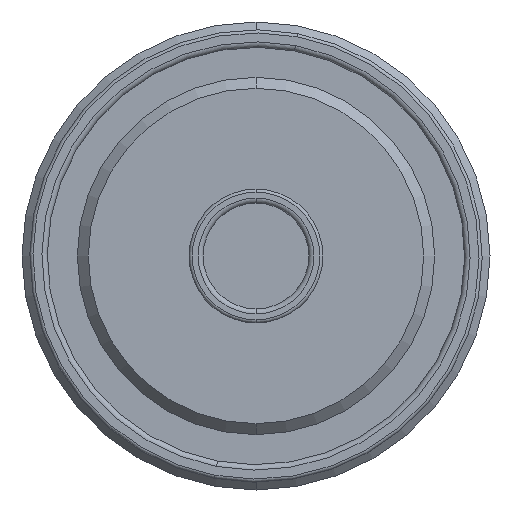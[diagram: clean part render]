
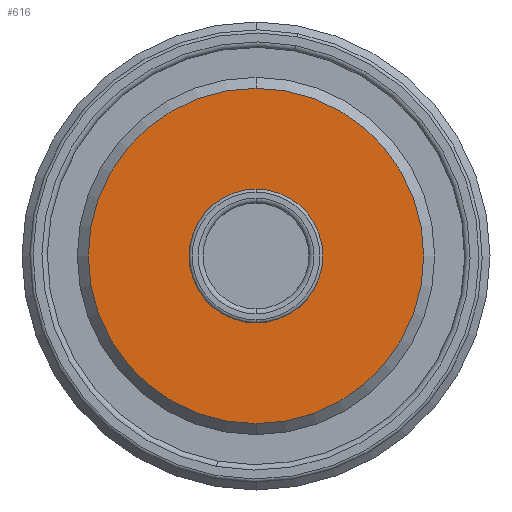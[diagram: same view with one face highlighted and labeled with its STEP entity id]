
A CAD part, front view. The second image highlights one B-rep face of the part: STEP entity #616.
In plain terms, the highlighted planar face has unit normal (0, -1, 0).
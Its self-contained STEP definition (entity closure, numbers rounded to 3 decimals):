
#242=PLANE('',#2727);
#283=FACE_BOUND('',#965,.T.);
#284=FACE_BOUND('',#966,.T.);
#616=ADVANCED_FACE('',(#283,#284),#242,.T.);
#965=EDGE_LOOP('',(#1456,#1457));
#966=EDGE_LOOP('',(#1458,#1459));
#1456=ORIENTED_EDGE('',*,*,#2184,.T.);
#1457=ORIENTED_EDGE('',*,*,#2116,.T.);
#1458=ORIENTED_EDGE('',*,*,#2112,.F.);
#1459=ORIENTED_EDGE('',*,*,#2185,.F.);
#1840=VERTEX_POINT('',#4186);
#1841=VERTEX_POINT('',#4187);
#1844=VERTEX_POINT('',#4195);
#1845=VERTEX_POINT('',#4196);
#2112=EDGE_CURVE('',#1840,#1841,#2401,.T.);
#2116=EDGE_CURVE('',#1844,#1845,#2403,.T.);
#2184=EDGE_CURVE('',#1845,#1844,#2425,.T.);
#2185=EDGE_CURVE('',#1841,#1840,#2426,.T.);
#2401=CIRCLE('',#2685,21.5);
#2403=CIRCLE('',#2688,8.58);
#2425=CIRCLE('',#2724,8.58);
#2426=CIRCLE('',#2726,21.5);
#2685=AXIS2_PLACEMENT_3D('',#4185,#3306,#3307);
#2688=AXIS2_PLACEMENT_3D('',#4194,#3314,#3315);
#2724=AXIS2_PLACEMENT_3D('',#4570,#3404,#3405);
#2726=AXIS2_PLACEMENT_3D('',#4572,#3408,#3409);
#2727=AXIS2_PLACEMENT_3D('',#4573,#3410,#3411);
#3306=DIRECTION('',(0.,1.,0.));
#3307=DIRECTION('',(0.,0.,1.));
#3314=DIRECTION('',(0.,1.,0.));
#3315=DIRECTION('',(0.,0.,1.));
#3404=DIRECTION('',(0.,1.,0.));
#3405=DIRECTION('',(0.,0.,1.));
#3408=DIRECTION('',(0.,1.,0.));
#3409=DIRECTION('',(0.,0.,1.));
#3410=DIRECTION('',(0.,-1.,0.));
#3411=DIRECTION('',(0.,0.,1.));
#4185=CARTESIAN_POINT('',(0.,-1.3,0.));
#4186=CARTESIAN_POINT('',(0.,-1.3,21.5));
#4187=CARTESIAN_POINT('',(0.,-1.3,-21.5));
#4194=CARTESIAN_POINT('',(0.,-1.3,0.));
#4195=CARTESIAN_POINT('',(0.,-1.3,-8.58));
#4196=CARTESIAN_POINT('',(0.,-1.3,8.58));
#4570=CARTESIAN_POINT('',(0.,-1.3,0.));
#4572=CARTESIAN_POINT('',(0.,-1.3,0.));
#4573=CARTESIAN_POINT('',(0.,-1.3,0.));
